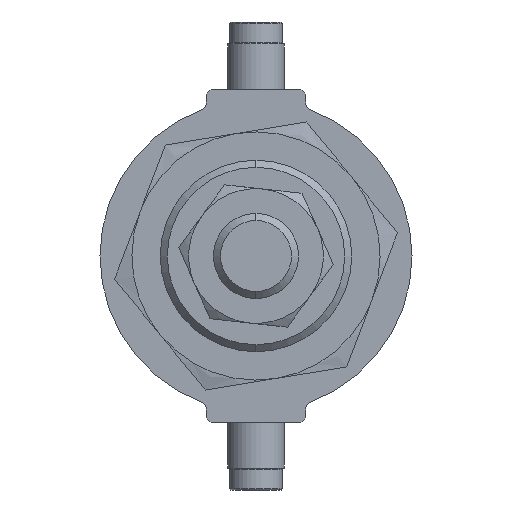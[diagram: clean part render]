
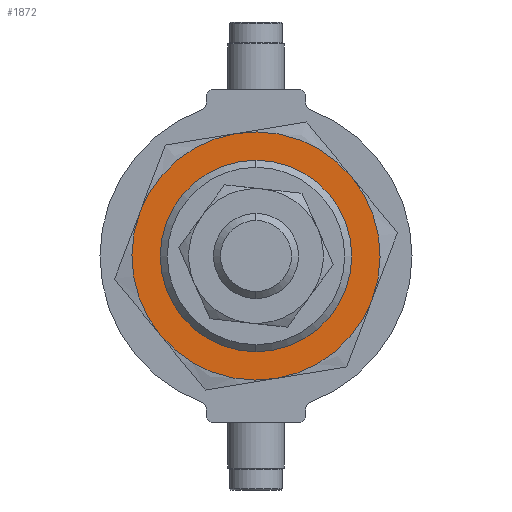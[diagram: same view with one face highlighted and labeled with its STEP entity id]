
A CAD part, left-side view. The second image highlights one B-rep face of the part: STEP entity #1872.
In plain terms, the highlighted planar face has unit normal (-1, 0, 0) as drawn and (0, 0, -1) by its records, which use the part's own axes.
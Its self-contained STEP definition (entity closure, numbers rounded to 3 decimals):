
#38 = ORIENTED_EDGE ( 'NONE', *, *, #1298, .T. ) ;
#72 = CARTESIAN_POINT ( 'NONE',  ( 0., 0., -1.5 ) ) ;
#80 = DIRECTION ( 'NONE',  ( 0., 0., 1. ) ) ;
#138 = CIRCLE ( 'NONE', #1935, 12.5 ) ;
#221 = ORIENTED_EDGE ( 'NONE', *, *, #1931, .T. ) ;
#265 = VERTEX_POINT ( 'NONE', #3981 ) ;
#302 = AXIS2_PLACEMENT_3D ( 'NONE', #4447, #80, #3345 ) ;
#530 = DIRECTION ( 'NONE',  ( 0., 0., 1. ) ) ;
#626 = AXIS2_PLACEMENT_3D ( 'NONE', #72, #4934, #3428 ) ;
#682 = DIRECTION ( 'NONE',  ( 1., 0., 0. ) ) ;
#713 = CARTESIAN_POINT ( 'NONE',  ( 12.5, 0., -1.5 ) ) ;
#913 = VERTEX_POINT ( 'NONE', #1288 ) ;
#1019 = DIRECTION ( 'NONE',  ( 1., 0., 0. ) ) ;
#1080 = CARTESIAN_POINT ( 'NONE',  ( 0., 0., -1.5 ) ) ;
#1128 = CARTESIAN_POINT ( 'NONE',  ( 8.75, -15.155, -1.5 ) ) ;
#1168 = CIRCLE ( 'NONE', #5682, 17.5 ) ;
#1215 = DIRECTION ( 'NONE',  ( 0., 0., 1. ) ) ;
#1288 = CARTESIAN_POINT ( 'NONE',  ( -8.75, -15.155, -1.5 ) ) ;
#1298 = EDGE_CURVE ( 'NONE', #5711, #5553, #4205, .T. ) ;
#1445 = DIRECTION ( 'NONE',  ( 0., 0., 1. ) ) ;
#1539 = EDGE_CURVE ( 'NONE', #2876, #265, #3892, .T. ) ;
#1571 = DIRECTION ( 'NONE',  ( 1., 0., 0. ) ) ;
#1629 = CIRCLE ( 'NONE', #302, 17.5 ) ;
#1662 = DIRECTION ( 'NONE',  ( 0., 0., 1. ) ) ;
#1706 = AXIS2_PLACEMENT_3D ( 'NONE', #5280, #530, #1019 ) ;
#1712 = DIRECTION ( 'NONE',  ( 1., 0., 0. ) ) ;
#1752 = EDGE_CURVE ( 'NONE', #913, #4688, #4693, .T. ) ;
#1788 = EDGE_CURVE ( 'NONE', #265, #4268, #4157, .T. ) ;
#1831 = EDGE_CURVE ( 'NONE', #4688, #4271, #1629, .T. ) ;
#1842 = AXIS2_PLACEMENT_3D ( 'NONE', #3997, #1445, #4764 ) ;
#1872 = ADVANCED_FACE ( 'NONE', ( #4576, #5534 ), #4974, .F. ) ;
#1896 = EDGE_LOOP ( 'NONE', ( #221, #38 ) ) ;
#1912 = DIRECTION ( 'NONE',  ( 0., 0., 1. ) ) ;
#1931 = EDGE_CURVE ( 'NONE', #5553, #5711, #138, .T. ) ;
#1935 = AXIS2_PLACEMENT_3D ( 'NONE', #4210, #1662, #1571 ) ;
#2418 = EDGE_CURVE ( 'NONE', #4268, #913, #4623, .T. ) ;
#2615 = AXIS2_PLACEMENT_3D ( 'NONE', #1080, #4873, #3003 ) ;
#2663 = AXIS2_PLACEMENT_3D ( 'NONE', #5858, #1215, #1712 ) ;
#2735 = CARTESIAN_POINT ( 'NONE',  ( 8.75, 15.155, -1.5 ) ) ;
#2876 = VERTEX_POINT ( 'NONE', #2735 ) ;
#2918 = CARTESIAN_POINT ( 'NONE',  ( -17.5, 0., -1.5 ) ) ;
#3003 = DIRECTION ( 'NONE',  ( 1., 0., 0. ) ) ;
#3051 = ORIENTED_EDGE ( 'NONE', *, *, #2418, .F. ) ;
#3166 = EDGE_CURVE ( 'NONE', #4271, #2876, #1168, .T. ) ;
#3171 = AXIS2_PLACEMENT_3D ( 'NONE', #3594, #1912, #3865 ) ;
#3207 = ORIENTED_EDGE ( 'NONE', *, *, #1752, .F. ) ;
#3292 = CARTESIAN_POINT ( 'NONE',  ( 17.5, 0., -1.5 ) ) ;
#3345 = DIRECTION ( 'NONE',  ( 1., 0., 0. ) ) ;
#3381 = ORIENTED_EDGE ( 'NONE', *, *, #1788, .F. ) ;
#3428 = DIRECTION ( 'NONE',  ( 1., 0., 0. ) ) ;
#3594 = CARTESIAN_POINT ( 'NONE',  ( 0., 0., -1.5 ) ) ;
#3641 = DIRECTION ( 'NONE',  ( 0., 0., 1. ) ) ;
#3865 = DIRECTION ( 'NONE',  ( 1., 0., 0. ) ) ;
#3892 = CIRCLE ( 'NONE', #2663, 17.5 ) ;
#3981 = CARTESIAN_POINT ( 'NONE',  ( -8.75, 15.155, -1.5 ) ) ;
#3997 = CARTESIAN_POINT ( 'NONE',  ( 0., 0., -1.5 ) ) ;
#4157 = CIRCLE ( 'NONE', #626, 17.5 ) ;
#4205 = CIRCLE ( 'NONE', #3171, 12.5 ) ;
#4210 = CARTESIAN_POINT ( 'NONE',  ( 0., 0., -1.5 ) ) ;
#4268 = VERTEX_POINT ( 'NONE', #2918 ) ;
#4271 = VERTEX_POINT ( 'NONE', #3292 ) ;
#4447 = CARTESIAN_POINT ( 'NONE',  ( 0., 0., -1.5 ) ) ;
#4532 = ORIENTED_EDGE ( 'NONE', *, *, #1539, .F. ) ;
#4576 = FACE_BOUND ( 'NONE', #1896, .T. ) ;
#4623 = CIRCLE ( 'NONE', #1842, 17.5 ) ;
#4688 = VERTEX_POINT ( 'NONE', #1128 ) ;
#4693 = CIRCLE ( 'NONE', #1706, 17.5 ) ;
#4715 = CARTESIAN_POINT ( 'NONE',  ( -12.5, 0., -1.5 ) ) ;
#4764 = DIRECTION ( 'NONE',  ( 1., 0., 0. ) ) ;
#4794 = ORIENTED_EDGE ( 'NONE', *, *, #3166, .F. ) ;
#4873 = DIRECTION ( 'NONE',  ( 0., 0., 1. ) ) ;
#4934 = DIRECTION ( 'NONE',  ( 0., 0., 1. ) ) ;
#4974 = PLANE ( 'NONE',  #2615 ) ;
#5250 = CARTESIAN_POINT ( 'NONE',  ( 0., 0., -1.5 ) ) ;
#5280 = CARTESIAN_POINT ( 'NONE',  ( 0., 0., -1.5 ) ) ;
#5366 = ORIENTED_EDGE ( 'NONE', *, *, #1831, .F. ) ;
#5534 = FACE_OUTER_BOUND ( 'NONE', #5775, .T. ) ;
#5553 = VERTEX_POINT ( 'NONE', #713 ) ;
#5682 = AXIS2_PLACEMENT_3D ( 'NONE', #5250, #3641, #682 ) ;
#5711 = VERTEX_POINT ( 'NONE', #4715 ) ;
#5775 = EDGE_LOOP ( 'NONE', ( #4794, #5366, #3207, #3051, #3381, #4532 ) ) ;
#5858 = CARTESIAN_POINT ( 'NONE',  ( 0., 0., -1.5 ) ) ;
